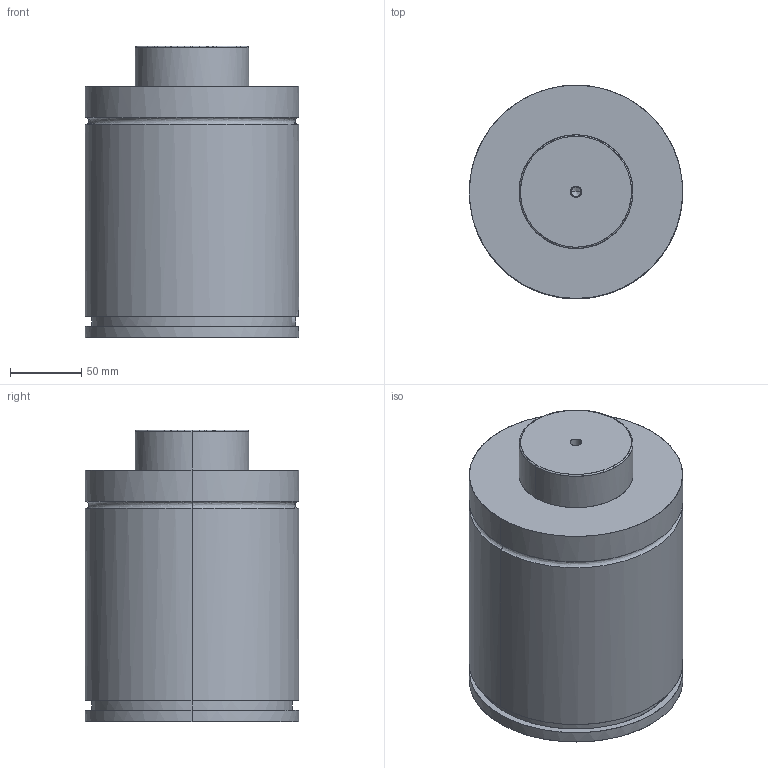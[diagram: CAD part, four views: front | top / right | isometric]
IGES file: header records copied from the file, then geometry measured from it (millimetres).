
Global section: file name: E:\UnigraphicsGraphicData\MISUMI_PRESS-PARTS\IGES\3d_gse150-25_03872_r00.igs; native system: NX V5.0; preprocessor: UGS NX IGES V5.0; author: MISUMI; date: 20110105.160754; units: millimetre
Bounding box: 150 x 150 x 205 mm (x, y, z)
Surface area: 134143 mm2 (no closed solid volume)
Topology: 0 solids, 0 shells, 75 faces, 604 edges, 602 vertices
Faces by surface type: bspline 75
